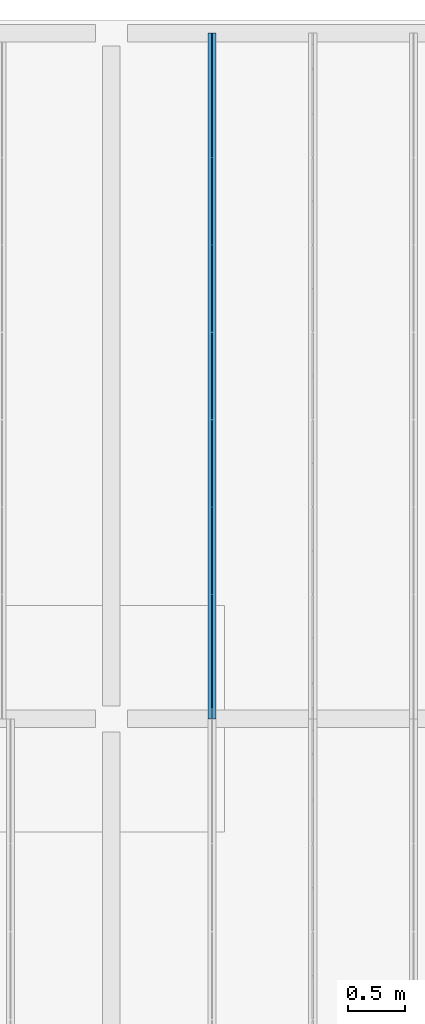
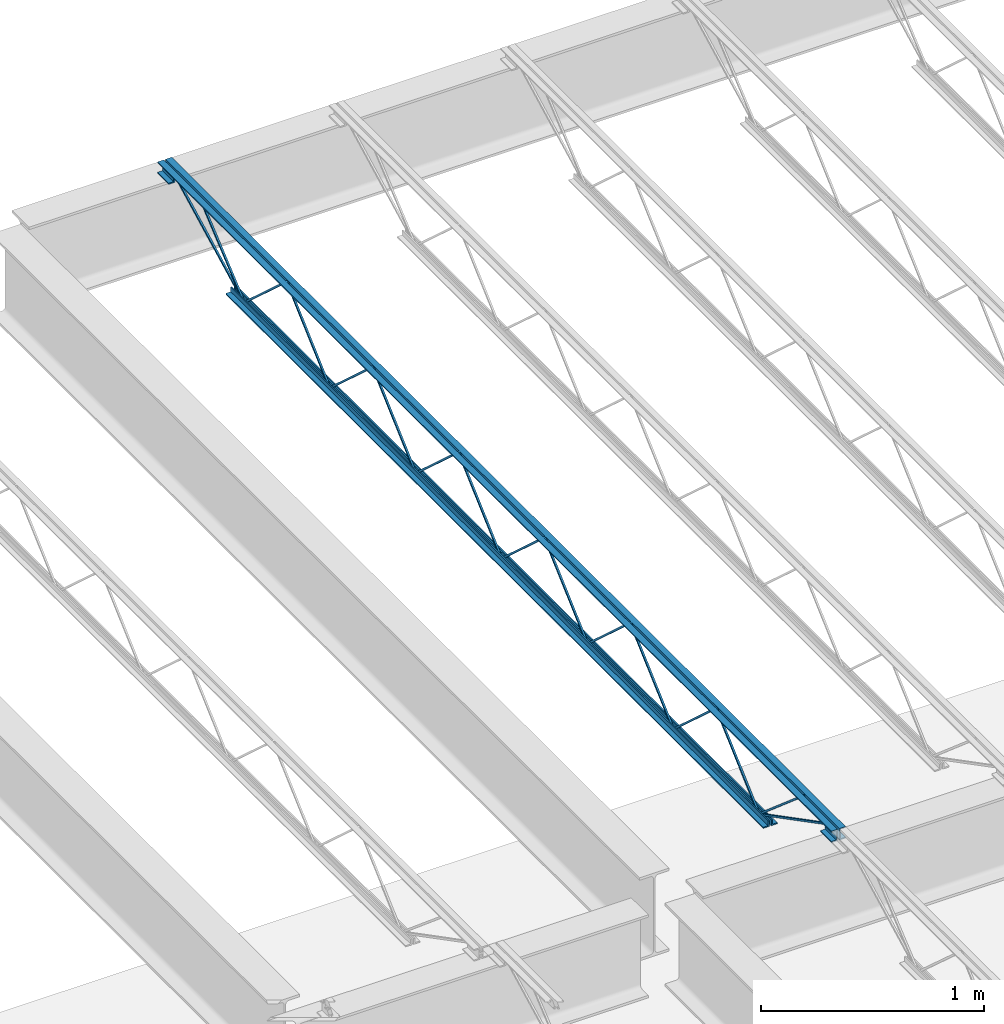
# One storey, part 49 of 75: 1 beam.
"""IFC2X3 building model written with IfcOpenShell, lengths in metres."""

from ifc_helpers import new_model, entity, si_unit, converted_unit, frame, origin, place, context, project, spatial, face_set, surface_model, element, save


model = new_model("IFC2X3")

# Units and contexts
model_context = context("Model", 3, precision=1e-09, world=origin())
plan_context = context("Plan", 3, precision=1e-09, world=origin())
ifc_project = project(units=[si_unit("LENGTHUNIT", "METRE"), si_unit("AREAUNIT", "SQUARE_METRE"), si_unit("VOLUMEUNIT", "CUBIC_METRE"), converted_unit("PLANEANGLEUNIT", "DEGREE", entity("IfcRatioMeasure", 0.01745329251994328), si_unit("PLANEANGLEUNIT", "RADIAN"), dimensions=[0, 0, 0, 0, 0, 0, 0]), si_unit("TIMEUNIT", "SECOND")], contexts=[model_context, plan_context])

# Site, building, storey
site_placement = place(None, origin())
site = spatial("IfcSite", under=ifc_project, at=site_placement, Name="Default", CompositionType="ELEMENT")
building_placement = place(site_placement, origin())
building = spatial("IfcBuilding", under=site, at=building_placement, CompositionType="ELEMENT")
storey_placement = place(building_placement, origin())
storey = spatial("IfcBuildingStorey", under=building, at=storey_placement, Name="First Floor", CompositionType="ELEMENT", Elevation=-3.531500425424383e-13)

# Beam
beam_placement = place(storey_placement, frame((-32.69799999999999, 50.09000000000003, 4.112000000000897), z_axis=(0.0, 0.0, 1.0), x_axis=(-1.0, 0.0, 0.0)))
element("IfcBeam", 1, at=beam_placement, inside=storey, Name="M_K-Series Bar Joist-Rod Web:14K1:14K1", ObjectType="M_K-Series Bar Joist-Rod Web:14K1", context=model_context, shape_type="SurfaceModel", body=[
    surface_model("IfcFaceBasedSurfaceModel", [(-0.03200000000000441, -2.254000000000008, 0.01110000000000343), (-0.04150000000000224, -2.254000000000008, 0.01110000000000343), (-0.04150000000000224, -2.254000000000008, 0.001600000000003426), (-0.03200000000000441, -2.254000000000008, 0.001600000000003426), (-0.04150000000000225, -2.252655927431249, 0.01110000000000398), (-0.03200000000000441, -2.252655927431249, 0.01110000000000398), (-0.04150000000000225, -2.248994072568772, 0.001600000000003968), (-0.04150000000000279, -1.869844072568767, 0.3449000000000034), (-0.0415000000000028, -1.86715592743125, 0.3449000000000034), (-0.04149999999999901, -1.48800592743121, 0.001600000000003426), (-0.04149999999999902, -1.483000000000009, 0.001600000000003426), (-0.04150000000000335, -1.483000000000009, 0.01110000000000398), (-0.04150000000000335, -1.484344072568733, 0.01110000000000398), (-0.04150000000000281, -1.863494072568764, 0.3544000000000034), (-0.04150000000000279, -1.873505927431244, 0.3544000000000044), (-0.03200000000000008, -2.248994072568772, 0.001600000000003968), (-0.03200000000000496, -1.869844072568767, 0.3449000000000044), (-0.03200000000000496, -1.86715592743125, 0.3449000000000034), (-0.0320000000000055, -1.48800592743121, 0.001600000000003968), (-0.03200000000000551, -1.483000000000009, 0.001600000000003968), (-0.03200000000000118, -1.483000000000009, 0.01110000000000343), (-0.03200000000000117, -1.484344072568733, 0.01110000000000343), (-0.03200000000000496, -1.863494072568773, 0.3544000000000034), (-0.03200000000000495, -1.873505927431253, 0.3544000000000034), (-0.0320000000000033, -3.025000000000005, 0.01110000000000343), (-0.04150000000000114, -3.025000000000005, 0.01110000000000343), (-0.04150000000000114, -3.025000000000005, 0.001600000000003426), (-0.0320000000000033, -3.025000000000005, 0.001600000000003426), (-0.04150000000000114, -3.023655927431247, 0.01110000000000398), (-0.0320000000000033, -3.023655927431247, 0.01110000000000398), (-0.04150000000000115, -3.01999407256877, 0.001600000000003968), (-0.04150000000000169, -2.640844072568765, 0.3449000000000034), (-0.04150000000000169, -2.638155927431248, 0.3449000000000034), (-0.04150000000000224, -2.259005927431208, 0.001600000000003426), (-0.04150000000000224, -2.254000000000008, 0.01110000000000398), (-0.04150000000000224, -2.255344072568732, 0.01110000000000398), (-0.0415000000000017, -2.634494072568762, 0.3544000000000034), (-0.04150000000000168, -2.644505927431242, 0.3544000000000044), (-0.03199999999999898, -3.01999407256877, 0.001600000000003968), (-0.03200000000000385, -2.640844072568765, 0.3449000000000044), (-0.03200000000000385, -2.638155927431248, 0.3449000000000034), (-0.03200000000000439, -2.259005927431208, 0.001600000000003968), (-0.03200000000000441, -2.254000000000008, 0.001600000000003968), (-0.0320000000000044, -2.255344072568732, 0.01110000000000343), (-0.03200000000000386, -2.634494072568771, 0.3544000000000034), (-0.03200000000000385, -2.644505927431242, 0.3544000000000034), (-0.03200000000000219, -3.796000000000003, 0.01110000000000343), (-0.04150000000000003, -3.796000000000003, 0.01110000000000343), (-0.04150000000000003, -3.796000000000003, 0.001600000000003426), (-0.03200000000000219, -3.796000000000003, 0.001600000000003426), (-0.04150000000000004, -3.794655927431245, 0.01110000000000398), (-0.03200000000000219, -3.794655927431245, 0.01110000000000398), (-0.04150000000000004, -3.790994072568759, 0.001600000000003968), (-0.04150000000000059, -3.411844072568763, 0.3449000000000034), (-0.04150000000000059, -3.409155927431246, 0.3449000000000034), (-0.04150000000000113, -3.030005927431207, 0.001600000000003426), (-0.04150000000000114, -3.025000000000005, 0.01110000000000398), (-0.04150000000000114, -3.026344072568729, 0.01110000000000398), (-0.0415000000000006, -3.40549407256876, 0.3544000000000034), (-0.04150000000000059, -3.41550592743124, 0.3544000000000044), (-0.03199999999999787, -3.790994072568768, 0.001600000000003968), (-0.03200000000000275, -3.411844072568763, 0.3449000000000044), (-0.03200000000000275, -3.409155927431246, 0.3449000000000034), (-0.03200000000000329, -3.030005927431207, 0.001600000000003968), (-0.0320000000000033, -3.025000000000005, 0.001600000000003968), (-0.0320000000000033, -3.026344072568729, 0.01110000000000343), (-0.03200000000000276, -3.40549407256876, 0.3544000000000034), (-0.03200000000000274, -3.41550592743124, 0.3544000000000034), (-0.03200000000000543, -4.567000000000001, 0.01110000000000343), (-0.04150000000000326, -4.567000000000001, 0.01110000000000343), (-0.04150000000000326, -4.567000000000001, 0.001600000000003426), (-0.03200000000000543, -4.567000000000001, 0.001600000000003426), (-0.04150000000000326, -4.565655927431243, 0.01110000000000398), (-0.03200000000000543, -4.565655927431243, 0.01110000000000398), (-0.04150000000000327, -4.561994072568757, 0.001600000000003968), (-0.04149999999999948, -4.182844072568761, 0.3449000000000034), (-0.04149999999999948, -4.180155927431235, 0.3449000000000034), (-0.04150000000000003, -3.801005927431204, 0.001600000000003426), (-0.04150000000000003, -3.795999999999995, 0.001600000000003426), (-0.04150000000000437, -3.796000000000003, 0.01110000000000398), (-0.04150000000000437, -3.797344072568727, 0.01110000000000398), (-0.04150000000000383, -4.176494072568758, 0.3544000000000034), (-0.04150000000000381, -4.186505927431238, 0.3544000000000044), (-0.0320000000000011, -4.561994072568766, 0.001600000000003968), (-0.03200000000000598, -4.182844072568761, 0.3449000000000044), (-0.03200000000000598, -4.180155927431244, 0.3449000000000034), (-0.03200000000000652, -3.801005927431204, 0.001600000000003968), (-0.03200000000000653, -3.796000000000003, 0.001600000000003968), (-0.03200000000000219, -3.795999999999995, 0.01110000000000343), (-0.03200000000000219, -3.797344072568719, 0.01110000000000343), (-0.03200000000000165, -4.176494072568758, 0.3544000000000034), (-0.03200000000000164, -4.186505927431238, 0.3544000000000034), (-0.03200000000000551, -1.483000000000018, 0.01109999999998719), (-0.04150000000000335, -1.483000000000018, 0.01109999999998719), (-0.04150000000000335, -1.483000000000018, 0.001599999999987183), (-0.03200000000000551, -1.483000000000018, 0.001599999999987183), (-0.04149999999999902, -1.48165592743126, 0.01109999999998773), (-0.03200000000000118, -1.48165592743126, 0.01109999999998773), (-0.04150000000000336, -1.477994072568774, 0.001599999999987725), (-0.0415000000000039, -1.098844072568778, 0.3448999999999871), (-0.0415000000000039, -1.096155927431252, 0.3448999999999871), (-0.04150000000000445, -0.717005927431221, 0.001599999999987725), (-0.04150000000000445, -0.7120000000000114, 0.001599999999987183), (-0.04150000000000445, -0.7120000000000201, 0.01109999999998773), (-0.04150000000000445, -0.713344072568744, 0.01109999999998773), (-0.04150000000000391, -1.092494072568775, 0.3543999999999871), (-0.04150000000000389, -1.102505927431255, 0.3543999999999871), (-0.03200000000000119, -1.477994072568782, 0.001599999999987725), (-0.03200000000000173, -1.098844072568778, 0.3448999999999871), (-0.03200000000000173, -1.09615592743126, 0.3448999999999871), (-0.03200000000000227, -0.717005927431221, 0.001599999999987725), (-0.03200000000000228, -0.7120000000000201, 0.001599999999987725), (-0.03200000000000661, -0.7120000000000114, 0.01109999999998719), (-0.03200000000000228, -0.7133440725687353, 0.01109999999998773), (-0.03200000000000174, -1.092494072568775, 0.3543999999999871), (-0.03200000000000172, -1.102505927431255, 0.3543999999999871), (-0.03200000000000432, -5.33799999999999, 0.01110000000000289), (-0.04150000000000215, -5.33799999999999, 0.01110000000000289), (-0.04150000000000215, -5.33799999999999, 0.001600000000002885), (-0.03200000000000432, -5.33799999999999, 0.001600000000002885), (-0.04150000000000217, -5.336655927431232, 0.01110000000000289), (-0.03200000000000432, -5.336655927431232, 0.01110000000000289), (-0.04150000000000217, -5.332994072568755, 0.001600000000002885), (-0.04150000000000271, -4.95384407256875, 0.3449000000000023), (-0.04150000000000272, -4.951155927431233, 0.3449000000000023), (-0.04150000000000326, -4.572005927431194, 0.001600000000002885), (-0.04150000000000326, -4.566999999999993, 0.001600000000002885), (-0.04150000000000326, -4.566999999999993, 0.01110000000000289), (-0.04150000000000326, -4.568344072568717, 0.01110000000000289), (-0.04150000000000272, -4.947494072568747, 0.3544000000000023), (-0.04150000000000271, -4.957505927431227, 0.3544000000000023), (-0.03199999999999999, -5.332994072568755, 0.001600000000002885), (-0.03200000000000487, -4.95384407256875, 0.3449000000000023), (-0.03200000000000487, -4.951155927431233, 0.3449000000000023), (-0.03200000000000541, -4.572005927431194, 0.001600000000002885), (-0.03200000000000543, -4.566999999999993, 0.001600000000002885), (-0.03200000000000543, -4.566999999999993, 0.01110000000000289), (-0.03200000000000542, -4.568344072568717, 0.01110000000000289), (-0.03200000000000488, -4.947494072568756, 0.3544000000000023), (-0.03200000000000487, -4.957505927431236, 0.3544000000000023), (-0.04150000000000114, 0.0, 0.3559999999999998), (-0.07350000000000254, 0.0, 0.3559999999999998), (-0.07350000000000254, 0.0, 0.349499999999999), (-0.04799999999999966, 0.0, 0.349499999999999), (-0.04799999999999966, 0.0, 0.3239999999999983), (-0.04150000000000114, 0.0, 0.3239999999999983), (-0.0320000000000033, 0.0, 0.3559999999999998), (-0.0320000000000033, 0.0, 0.3239999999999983), (-0.02550000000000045, 0.0, 0.3239999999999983), (-0.02550000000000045, 0.0, 0.349499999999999), (0.0, 0.0, 0.349499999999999), (0.0, 0.0, 0.3559999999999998), (-0.04150000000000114, -6.049999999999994, 0.3559999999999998), (-0.07350000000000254, -6.049999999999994, 0.3559999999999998), (-0.07350000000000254, -6.049999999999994, 0.349499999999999), (-0.04799999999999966, -6.049999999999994, 0.349499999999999), (-0.04799999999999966, -6.049999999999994, 0.3239999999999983), (-0.04150000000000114, -6.049999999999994, 0.3239999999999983), (-0.0320000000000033, -6.049999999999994, 0.3559999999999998), (-0.0320000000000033, -6.049999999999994, 0.3239999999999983), (-0.02550000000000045, -6.049999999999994, 0.3239999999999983), (-0.02550000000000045, -6.049999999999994, 0.349499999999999), (0.0, -6.049999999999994, 0.349499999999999), (0.0, -6.049999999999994, 0.3559999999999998), (-0.03200000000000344, -5.950000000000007, 0.2924999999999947), (0.0, -5.950000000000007, 0.2924999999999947), (0.0, -5.950000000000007, 0.2989999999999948), (-0.02550000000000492, -5.950000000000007, 0.2989999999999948), (-0.02550000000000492, -5.950000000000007, 0.3239999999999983), (-0.03200000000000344, -5.950000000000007, 0.3239999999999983), (-0.07350000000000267, -5.950000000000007, 0.2924999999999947), (-0.04150000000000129, -5.950000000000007, 0.2924999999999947), (-0.04150000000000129, -5.950000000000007, 0.3239999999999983), (-0.04800000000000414, -5.950000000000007, 0.3239999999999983), (-0.04800000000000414, -5.950000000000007, 0.2989999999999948), (-0.07350000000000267, -5.950000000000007, 0.2989999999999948), (-0.0320000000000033, -6.049999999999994, 0.2924999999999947), (0.0, -6.049999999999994, 0.2924999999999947), (0.0, -6.049999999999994, 0.2989999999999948), (-0.02550000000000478, -6.049999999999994, 0.2989999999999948), (-0.02550000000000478, -6.049999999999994, 0.3239999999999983), (-0.07350000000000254, -6.049999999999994, 0.2924999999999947), (-0.04150000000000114, -6.049999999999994, 0.2924999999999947), (-0.048000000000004, -6.049999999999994, 0.3239999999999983), (-0.048000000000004, -6.049999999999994, 0.2989999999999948), (-0.07350000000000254, -6.049999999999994, 0.2989999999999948), (-0.04150000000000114, 0.0, 0.2924999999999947), (-0.048000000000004, 0.0, 0.3239999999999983), (-0.048000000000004, 0.0, 0.2989999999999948), (-0.07350000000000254, 0.0, 0.2989999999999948), (-0.07350000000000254, 0.0, 0.2924999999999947), (-0.0320000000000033, 0.0, 0.2924999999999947), (0.0, 0.0, 0.2924999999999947), (0.0, 0.0, 0.2989999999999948), (-0.02550000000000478, 0.0, 0.2989999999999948), (-0.02550000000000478, 0.0, 0.3239999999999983), (-0.04150000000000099, -0.0999999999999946, 0.2924999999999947), (-0.04150000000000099, -0.0999999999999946, 0.3239999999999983), (-0.04800000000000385, -0.0999999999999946, 0.3239999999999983), (-0.04800000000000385, -0.0999999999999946, 0.2989999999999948), (-0.07350000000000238, -0.0999999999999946, 0.2989999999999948), (-0.07350000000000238, -0.0999999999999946, 0.2924999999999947), (-0.03200000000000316, -0.0999999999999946, 0.2924999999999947), (0.0, -0.0999999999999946, 0.2924999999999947), (0.0, -0.0999999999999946, 0.2989999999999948), (-0.02550000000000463, -0.0999999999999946, 0.2989999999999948), (-0.02550000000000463, -0.0999999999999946, 0.3239999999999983), (-0.03200000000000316, -0.0999999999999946, 0.3239999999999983), (-0.04150000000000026, -0.6119999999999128, 0.0), (-0.04150000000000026, -0.6119999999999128, 0.03199999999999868), (-0.04799999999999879, -0.6119999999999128, 0.03199999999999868), (-0.04799999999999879, -0.6119999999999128, 0.006499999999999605), (-0.07350000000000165, -0.6119999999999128, 0.006499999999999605), (-0.07350000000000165, -0.6119999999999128, 0.0), (-0.03200000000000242, -0.6119999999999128, 0.0), (0.0, -0.6119999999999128, 0.0), (0.0, -0.6119999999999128, 0.006499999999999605), (-0.02549999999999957, -0.6119999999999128, 0.006499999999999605), (-0.02549999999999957, -0.6119999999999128, 0.03199999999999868), (-0.03200000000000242, -0.6119999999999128, 0.03199999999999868), (-0.04150000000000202, -5.437999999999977, 0.0), (-0.04150000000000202, -5.437999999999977, 0.03199999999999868), (-0.04800000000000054, -5.437999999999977, 0.03199999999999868), (-0.04800000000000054, -5.437999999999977, 0.006499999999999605), (-0.07350000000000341, -5.437999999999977, 0.006499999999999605), (-0.07350000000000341, -5.437999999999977, 0.0), (-0.03200000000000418, -5.437999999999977, 0.0), (0.0, -5.437999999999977, 0.0), (0.0, -5.437999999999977, 0.006499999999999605), (-0.02550000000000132, -5.437999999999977, 0.006499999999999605), (-0.02550000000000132, -5.437999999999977, 0.03199999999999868), (-0.03200000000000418, -5.437999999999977, 0.03199999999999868), (-0.03200000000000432, -5.335811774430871, 0.01056594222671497), (-0.04150000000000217, -5.335811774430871, 0.01056594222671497), (-0.04150000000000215, -5.34018822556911, 0.002134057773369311), (-0.03200000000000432, -5.34018822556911, 0.002134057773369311), (-0.03200000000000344, -5.948840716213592, 0.3287499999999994), (-0.0320000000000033, -6.049999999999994, 0.3287499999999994), (-0.0320000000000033, -6.049999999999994, 0.3192499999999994), (-0.03200000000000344, -5.951159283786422, 0.3192499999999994), (-0.04150000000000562, -5.951159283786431, 0.3192499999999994), (-0.04150000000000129, -5.948840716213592, 0.3287499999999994), (-0.04150000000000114, -6.049999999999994, 0.3287499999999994), (-0.04150000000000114, -6.049999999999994, 0.3192499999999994), (-0.03200000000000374, -5.743457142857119, 0.341700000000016), (-0.04150000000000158, -5.743457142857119, 0.341700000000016), (-0.04150000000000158, -5.743457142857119, 0.332200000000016), (-0.03200000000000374, -5.743457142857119, 0.332200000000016), (-0.0415000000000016, -5.729024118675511, 0.341700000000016), (-0.03200000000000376, -5.729024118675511, 0.341700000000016), (-0.0415000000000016, -5.732490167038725, 0.332200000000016), (-0.04150000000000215, -5.341058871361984, 0.002716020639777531), (-0.04150000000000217, -5.334941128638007, 0.009983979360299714), (-0.03199999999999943, -5.732490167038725, 0.332200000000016), (-0.03200000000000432, -5.341058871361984, 0.002716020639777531), (-0.03200000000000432, -5.334941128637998, 0.009983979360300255), (-0.03200000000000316, -0.09781177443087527, 0.3197840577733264), (-0.03200000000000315, -0.1021882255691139, 0.3282159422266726), (-0.04150000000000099, -0.1021882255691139, 0.3282159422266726), (-0.04150000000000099, -0.09781177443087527, 0.3197840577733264), (-0.03200000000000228, -0.7098117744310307, 0.002134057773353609), (-0.03200000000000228, -0.7141882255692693, 0.01056594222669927), (-0.04150000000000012, -0.7141882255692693, 0.01056594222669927), (-0.04150000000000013, -0.7098117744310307, 0.002134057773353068), (-0.03200000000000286, -0.3088922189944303, 0.3460454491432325), (-0.03200000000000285, -0.3150792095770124, 0.3532545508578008), (-0.04150000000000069, -0.3150792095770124, 0.3532545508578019), (-0.0415000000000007, -0.3088922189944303, 0.3460454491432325), (-0.03200000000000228, -0.7089065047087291, 0.002745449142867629), (-0.03200000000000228, -0.715093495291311, 0.009954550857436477), (-0.04150000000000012, -0.715093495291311, 0.009954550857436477), (-0.04150000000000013, -0.7089065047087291, 0.002745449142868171)], [face_set([[[0, 1, 2, 3]], [[1, 4, 5, 0]], [[2, 6, 7, 8, 9, 10, 11, 12, 13, 14, 4, 1]], [[3, 2, 6, 15]], [[0, 3, 15, 16, 17, 18, 19, 20, 21, 22, 23, 5]], [[4, 5, 23, 14]], [[15, 16, 7, 6]], [[14, 13, 22, 23]], [[16, 7, 8, 17]], [[13, 12, 21, 22]], [[17, 8, 9, 18]], [[20, 11, 10, 19]], [[12, 11, 20, 21]], [[18, 9, 10, 19]]]), face_set([[[24, 25, 26, 27]], [[25, 28, 29, 24]], [[26, 30, 31, 32, 33, 2, 34, 35, 36, 37, 28, 25]], [[27, 26, 30, 38]], [[24, 27, 38, 39, 40, 41, 42, 0, 43, 44, 45, 29]], [[28, 29, 45, 37]], [[38, 39, 31, 30]], [[37, 36, 44, 45]], [[39, 31, 32, 40]], [[36, 35, 43, 44]], [[40, 32, 33, 41]], [[0, 34, 2, 42]], [[35, 34, 0, 43]], [[41, 33, 2, 42]]]), face_set([[[46, 47, 48, 49]], [[47, 50, 51, 46]], [[48, 52, 53, 54, 55, 26, 56, 57, 58, 59, 50, 47]], [[49, 48, 52, 60]], [[46, 49, 60, 61, 62, 63, 64, 24, 65, 66, 67, 51]], [[50, 51, 67, 59]], [[60, 61, 53, 52]], [[59, 58, 66, 67]], [[61, 53, 54, 62]], [[58, 57, 65, 66]], [[62, 54, 55, 63]], [[24, 56, 26, 64]], [[57, 56, 24, 65]], [[63, 55, 26, 64]]]), face_set([[[68, 69, 70, 71]], [[69, 72, 73, 68]], [[70, 74, 75, 76, 77, 78, 79, 80, 81, 82, 72, 69]], [[71, 70, 74, 83]], [[68, 71, 83, 84, 85, 86, 87, 88, 89, 90, 91, 73]], [[72, 73, 91, 82]], [[83, 84, 75, 74]], [[82, 81, 90, 91]], [[84, 75, 76, 85]], [[81, 80, 89, 90]], [[85, 76, 77, 86]], [[88, 79, 78, 87]], [[80, 79, 88, 89]], [[86, 77, 78, 87]]]), face_set([[[92, 93, 94, 95]], [[93, 96, 97, 92]], [[94, 98, 99, 100, 101, 102, 103, 104, 105, 106, 96, 93]], [[95, 94, 98, 107]], [[92, 95, 107, 108, 109, 110, 111, 112, 113, 114, 115, 97]], [[96, 97, 115, 106]], [[107, 108, 99, 98]], [[106, 105, 114, 115]], [[108, 99, 100, 109]], [[105, 104, 113, 114]], [[109, 100, 101, 110]], [[112, 103, 102, 111]], [[104, 103, 112, 113]], [[110, 101, 102, 111]]]), face_set([[[116, 117, 118, 119]], [[117, 120, 121, 116]], [[118, 122, 123, 124, 125, 126, 127, 128, 129, 130, 120, 117]], [[119, 118, 122, 131]], [[116, 119, 131, 132, 133, 134, 135, 136, 137, 138, 139, 121]], [[120, 121, 139, 130]], [[131, 132, 123, 122]], [[130, 129, 138, 139]], [[132, 123, 124, 133]], [[129, 128, 137, 138]], [[133, 124, 125, 134]], [[136, 127, 126, 135]], [[128, 127, 136, 137]], [[134, 125, 126, 135]]]), face_set([[[140, 141, 142, 143, 144, 145]], [[146, 147, 148, 149, 150, 151]], [[152, 153, 154, 155, 156, 157]], [[158, 159, 160, 161, 162, 163]], [[145, 140, 152, 157]], [[144, 145, 157, 156]], [[143, 155, 156, 144]], [[142, 143, 155, 154]], [[141, 153, 154, 142]], [[140, 152, 153, 141]], [[151, 163, 158, 146]], [[150, 151, 163, 162]], [[149, 150, 162, 161]], [[148, 149, 161, 160]], [[147, 148, 160, 159]], [[146, 158, 159, 147]]]), face_set([[[164, 165, 166, 167, 168, 169]], [[170, 171, 172, 173, 174, 175]], [[176, 177, 178, 179, 180, 159]], [[181, 182, 157, 183, 184, 185]], [[169, 159, 176, 164]], [[168, 180, 159, 169]], [[167, 168, 180, 179]], [[166, 178, 179, 167]], [[165, 166, 178, 177]], [[164, 165, 177, 176]], [[175, 185, 181, 170]], [[174, 184, 185, 175]], [[173, 183, 184, 174]], [[172, 157, 183, 173]], [[171, 172, 157, 182]], [[170, 171, 182, 181]]]), face_set([[[186, 145, 187, 188, 189, 190]], [[191, 192, 193, 194, 195, 147]], [[196, 197, 198, 199, 200, 201]], [[202, 203, 204, 205, 206, 207]], [[190, 186, 196, 201]], [[189, 200, 201, 190]], [[188, 199, 200, 189]], [[187, 198, 199, 188]], [[145, 197, 198, 187]], [[186, 145, 197, 196]], [[147, 207, 202, 191]], [[195, 206, 207, 147]], [[194, 195, 206, 205]], [[193, 204, 205, 194]], [[192, 193, 204, 203]], [[191, 192, 203, 202]]]), face_set([[[208, 209, 210, 211, 212, 213]], [[214, 215, 216, 217, 218, 219]], [[220, 221, 222, 223, 224, 225]], [[226, 227, 228, 229, 230, 231]], [[213, 208, 220, 225]], [[212, 224, 225, 213]], [[211, 223, 224, 212]], [[210, 222, 223, 211]], [[209, 221, 222, 210]], [[208, 209, 221, 220]], [[219, 231, 226, 214]], [[218, 230, 231, 219]], [[217, 218, 230, 229]], [[216, 228, 229, 217]], [[215, 216, 228, 227]], [[214, 215, 227, 226]]]), face_set([[[232, 233, 234, 235]], [[235, 232, 236, 237, 238, 239]], [[234, 235, 239, 240]], [[233, 241, 242, 243, 240, 234]], [[232, 236, 241, 233]], [[237, 242, 243, 238]], [[240, 239, 238, 243]], [[236, 237, 242, 241]]]), face_set([[[244, 245, 246, 247]], [[245, 248, 249, 244]], [[246, 250, 251, 252, 248, 245]], [[247, 246, 250, 253]], [[244, 247, 253, 254, 255, 249]], [[255, 252, 251, 254]], [[248, 252, 255, 249]], [[253, 250, 251, 254]]]), face_set([[[256, 257, 258, 259]], [[260, 261, 262, 263]], [[259, 263, 260, 256]], [[258, 262, 263, 259]], [[257, 258, 262, 261]], [[256, 257, 261, 260]]]), face_set([[[264, 265, 266, 267]], [[268, 269, 270, 271]], [[267, 271, 268, 264]], [[266, 270, 271, 267]], [[265, 266, 270, 269]], [[264, 265, 269, 268]]])]),
])

save(model, "model.ifc")
